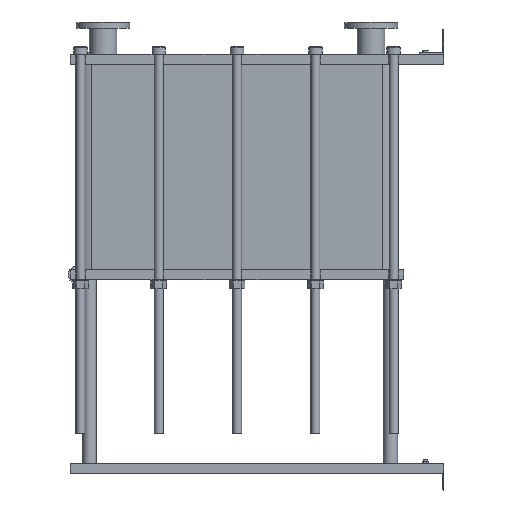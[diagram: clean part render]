
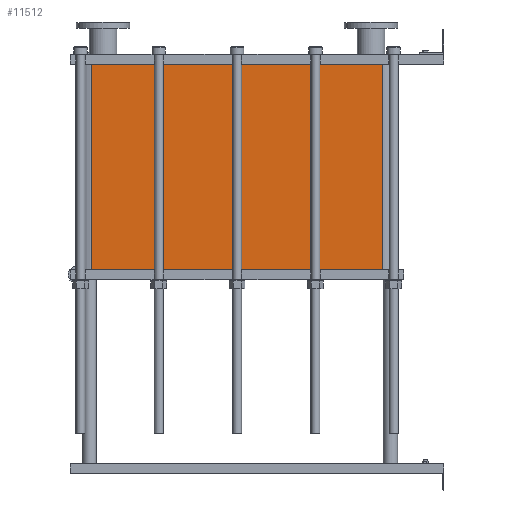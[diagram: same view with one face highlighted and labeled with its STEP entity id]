
A CAD part, left-side view. The second image highlights one B-rep face of the part: STEP entity #11512.
In plain terms, the highlighted planar face has unit normal (-1, 0, 0).
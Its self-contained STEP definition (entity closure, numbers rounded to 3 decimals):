
#1129=LINE('',#23232,#2102);
#1130=LINE('',#23236,#2103);
#1131=LINE('',#23238,#2104);
#1132=LINE('',#23239,#2105);
#2102=VECTOR('',#15887,10.);
#2103=VECTOR('',#15892,10.);
#2104=VECTOR('',#15893,10.);
#2105=VECTOR('',#15894,10.);
#3267=FACE_OUTER_BOUND('',#4093,.T.);
#4093=EDGE_LOOP('',(#10103,#10104,#10105,#10106));
#5642=VERTEX_POINT('',#23229);
#5643=VERTEX_POINT('',#23231);
#5644=VERTEX_POINT('',#23235);
#5645=VERTEX_POINT('',#23237);
#7159=EDGE_CURVE('',#5643,#5642,#1129,.T.);
#7161=EDGE_CURVE('',#5642,#5644,#1130,.T.);
#7162=EDGE_CURVE('',#5645,#5644,#1131,.T.);
#7163=EDGE_CURVE('',#5645,#5643,#1132,.T.);
#10103=ORIENTED_EDGE('',*,*,#7161,.T.);
#10104=ORIENTED_EDGE('',*,*,#7162,.F.);
#10105=ORIENTED_EDGE('',*,*,#7163,.T.);
#10106=ORIENTED_EDGE('',*,*,#7159,.T.);
#10857=PLANE('',#12751);
#11512=ADVANCED_FACE('',(#3267),#10857,.T.);
#12751=AXIS2_PLACEMENT_3D('',#23234,#15890,#15891);
#15887=DIRECTION('',(0.,0.,-1.));
#15890=DIRECTION('center_axis',(-1.,0.,0.));
#15891=DIRECTION('ref_axis',(0.,1.,0.));
#15892=DIRECTION('',(0.,-1.,0.));
#15893=DIRECTION('',(0.,0.,-1.));
#15894=DIRECTION('',(0.,1.,0.));
#23229=CARTESIAN_POINT('',(-200.,1414.,-824.55));
#23231=CARTESIAN_POINT('',(-200.,1414.,0.));
#23232=CARTESIAN_POINT('',(-200.,1414.,0.));
#23234=CARTESIAN_POINT('Origin',(-200.,248.,0.));
#23235=CARTESIAN_POINT('',(-200.,248.,-824.55));
#23236=CARTESIAN_POINT('',(-200.,539.5,-824.55));
#23237=CARTESIAN_POINT('',(-200.,248.,0.));
#23238=CARTESIAN_POINT('',(-200.,248.,0.));
#23239=CARTESIAN_POINT('',(-200.,248.,0.));
